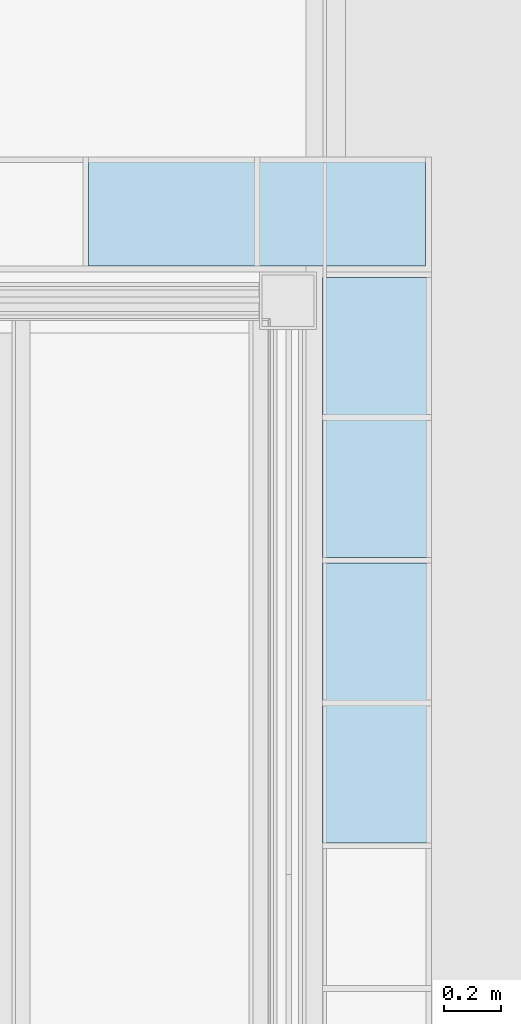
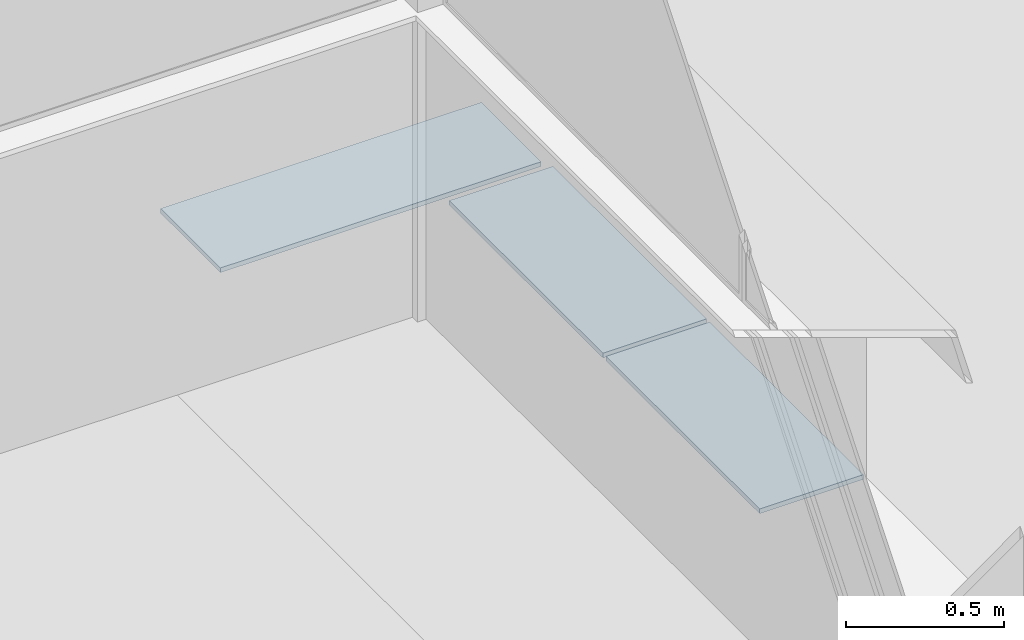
# One storey, part 39 of 137: 3 slabs.
"""IFC2X3 building model written with IfcOpenShell, lengths in millimetres."""

from ifc_helpers import new_model, entity, si_unit, converted_unit, derived_unit, money_unit, direction, frame, origin_with_axes, place, context, subcontext, project, spatial, faceted_brep, material, type_object, element, save


model = new_model("IFC2X3")

# Units and contexts
model_context = context("Model", 3, precision=0.01, world=origin_with_axes(), true_north=direction((0.0, 1.0)))
body_context = subcontext(model_context, "Body", "Model", "MODEL_VIEW")
ifc_project = project(units=[si_unit("LENGTHUNIT", "METRE", prefix="MILLI"), si_unit("AREAUNIT", "SQUARE_METRE"), si_unit("VOLUMEUNIT", "CUBIC_METRE"), converted_unit("PLANEANGLEUNIT", "DEGREE", entity("IfcPlaneAngleMeasure", 0.0174532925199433), si_unit("PLANEANGLEUNIT", "RADIAN"), dimensions=[0, 0, 0, 0, 0, 0, 0]), money_unit("EUR"), converted_unit("TIMEUNIT", "Year", entity("IfcTimeMeasure", 31556926.0), si_unit("TIMEUNIT", "SECOND"), dimensions=[0, 0, 1, 0, 0, 0, 0]), si_unit("MASSUNIT", "GRAM", prefix="KILO"), si_unit("THERMODYNAMICTEMPERATUREUNIT", "DEGREE_CELSIUS"), si_unit("LUMINOUSINTENSITYUNIT", "LUMEN"), si_unit("ENERGYUNIT", "JOULE", prefix="MEGA"), derived_unit("THERMALCONDUCTANCEUNIT", [(si_unit("POWERUNIT", "WATT"), 1), (si_unit("LENGTHUNIT", "METRE"), -1), (si_unit("THERMODYNAMICTEMPERATUREUNIT", "KELVIN"), -1)]), derived_unit("SPECIFICHEATCAPACITYUNIT", [(si_unit("ENERGYUNIT", "JOULE"), 1), (si_unit("MASSUNIT", "GRAM", prefix="KILO"), -1), (si_unit("THERMODYNAMICTEMPERATUREUNIT", "KELVIN"), -1)]), derived_unit("MASSDENSITYUNIT", [(si_unit("MASSUNIT", "GRAM", prefix="KILO"), 1), (si_unit("VOLUMEUNIT", "CUBIC_METRE"), -1)])], contexts=[model_context])

# Site, building, storey
site_placement = place(None, origin_with_axes())
site = spatial("IfcSite", under=ifc_project, at=site_placement, Name="Site", CompositionType="ELEMENT")
building_placement = place(site_placement, origin_with_axes())
building = spatial("IfcBuilding", under=site, at=building_placement, Name="Naam gebouw", CompositionType="ELEMENT")
storey_placement = place(building_placement, frame((0.0, 0.0, 3960.0), z_axis=(0.0, 0.0, 1.0), x_axis=(1.0, 0.0, 0.0)))
storey = spatial("IfcBuildingStorey", under=building, at=storey_placement, Name="1e verdieping", CompositionType="ELEMENT", Elevation=3960.0)

# Slabs
ifc_material = material(Name="Hout AFW")
slab_type = type_object("IfcSlabType", Name="Hout AFW 18", PredefinedType="NOTDEFINED")
slab_1_placement = place(storey_placement, frame((9330.000000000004, 19569.99730023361, 267.9999999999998), z_axis=(0.0, 0.0, 1.0), x_axis=(1.0, 0.0, 0.0)))
element("IfcSlab", 1, at=slab_1_placement, inside=storey, type_object=slab_type, material=ifc_material, Name="i HOUT_Vloer-x", PredefinedType="NOTDEFINED", context=body_context, shape_type="Brep", body=[
    faceted_brep([(0.0, 0.0, 18.00000000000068), (0.0, 0.0, 0.0), (0.0, 380.006513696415, 0.0), (0.0, 380.006513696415, 18.00000000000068), (-1174.999984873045, 0.0, 18.00000000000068), (-1174.999984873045, 0.0, 0.0), (-1174.999984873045, 380.0065136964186, 0.0), (-1174.999984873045, 380.0065136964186, 18.00000000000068)], [[[0, 1, 2, 3]], [[4, 5, 1, 0]], [[2, 1, 5, 6]], [[3, 2, 6, 7]], [[4, 0, 3, 7]], [[7, 6, 5, 4]]]),
])
slab_2_placement = place(storey_placement, frame((9350.004002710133, 18554.99980970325, 267.9999999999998), z_axis=(0.0, 0.0, 1.0), x_axis=(1.0, 0.0, 0.0)))
element("IfcSlab", 2, at=slab_2_placement, inside=storey, type_object=slab_type, material=ifc_material, Name="i HOUT_Vloer-x", PredefinedType="NOTDEFINED", context=body_context, shape_type="Brep", body=[
    faceted_brep([(0.0, 0.0, 18.00000000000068), (0.0, 0.0, 0.0), (0.0, 975.0000015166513, 0.0), (0.0, 975.0000015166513, 18.00000000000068), (-380.006513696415, 0.0, 18.00000000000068), (-380.006513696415, 0.0, 0.0), (-380.006513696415, 975.0000015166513, 0.0), (-380.006513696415, 975.0000015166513, 18.00000000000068)], [[[0, 1, 2, 3]], [[4, 5, 1, 0]], [[2, 1, 5, 6]], [[3, 2, 6, 7]], [[4, 0, 3, 7]], [[7, 6, 5, 4]]]),
])
slab_3_placement = place(storey_placement, frame((9350.004002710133, 17559.9998112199, 267.9999999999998), z_axis=(0.0, 0.0, 1.0), x_axis=(1.0, 0.0, 0.0)))
element("IfcSlab", 3, at=slab_3_placement, inside=storey, type_object=slab_type, material=ifc_material, Name="i HOUT_Vloer-x", PredefinedType="NOTDEFINED", context=body_context, shape_type="Brep", body=[
    faceted_brep([(0.0, 0.0, 18.00000000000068), (0.0, 0.0, 0.0), (0.0, 974.9999984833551, 0.0), (0.0, 974.9999984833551, 18.00000000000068), (-380.006513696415, 0.0, 18.00000000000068), (-380.006513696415, 0.0, 0.0), (-380.006513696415, 974.9999984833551, 0.0), (-380.006513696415, 974.9999984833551, 18.00000000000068)], [[[0, 1, 2, 3]], [[4, 5, 1, 0]], [[2, 1, 5, 6]], [[3, 2, 6, 7]], [[4, 0, 3, 7]], [[7, 6, 5, 4]]]),
])

save(model, "model.ifc")
